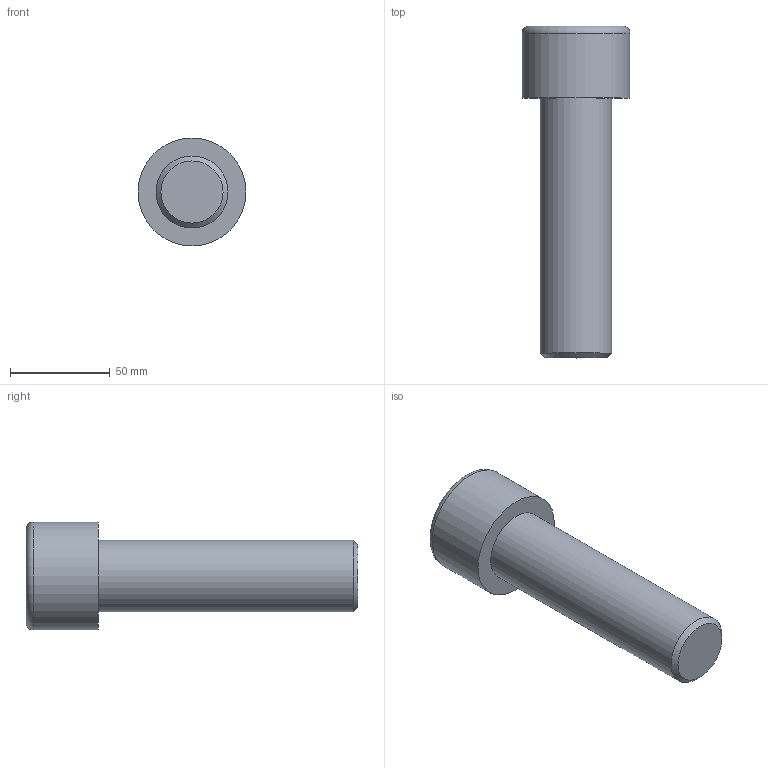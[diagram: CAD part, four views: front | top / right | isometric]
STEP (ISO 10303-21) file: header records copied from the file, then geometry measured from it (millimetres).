
FILE_DESCRIPTION(/* description */ (''),/* implementation_level */ '2;1');
FILE_NAME(/* name */ 'C:\Users\D\Documents\Inventor\各種小物\JIS\JIS B 1176 六角穴付きボルト\M36x130.stp',/* time_stamp */ '2022-05-09T19:04:04+09:00',/* author */ ('D'),/* organization */ (''),/* preprocessor_version */ 'ST-DEVELOPER v18',/* originating_system */ 'Autodesk Inventor 2020',/* authorisation */ '');
FILE_SCHEMA (('AUTOMOTIVE_DESIGN { 1 0 10303 214 3 1 1 }'));
Length unit declared in the file: millimetre
Products named in the file (1): M1.6x2.5
Bounding box: 54 x 166 x 54 mm (x, y, z)
Volume: 199767.3 mm3; surface area: 26901.2 mm2
Topology: 1 solids, 1 shells, 14 faces, 33 edges, 22 vertices
Faces by surface type: plane 9, cone 2, cylinder 2, torus 1
Full cylindrical faces by diameter (mm): 36 x1, 54 x1
Entity records: 435 total; most frequent: CARTESIAN_POINT 83, ORIENTED_EDGE 64, DIRECTION 64, EDGE_CURVE 32, AXIS2_PLACEMENT_3D 24, VERTEX_POINT 22, EDGE_LOOP 16, LINE 16
